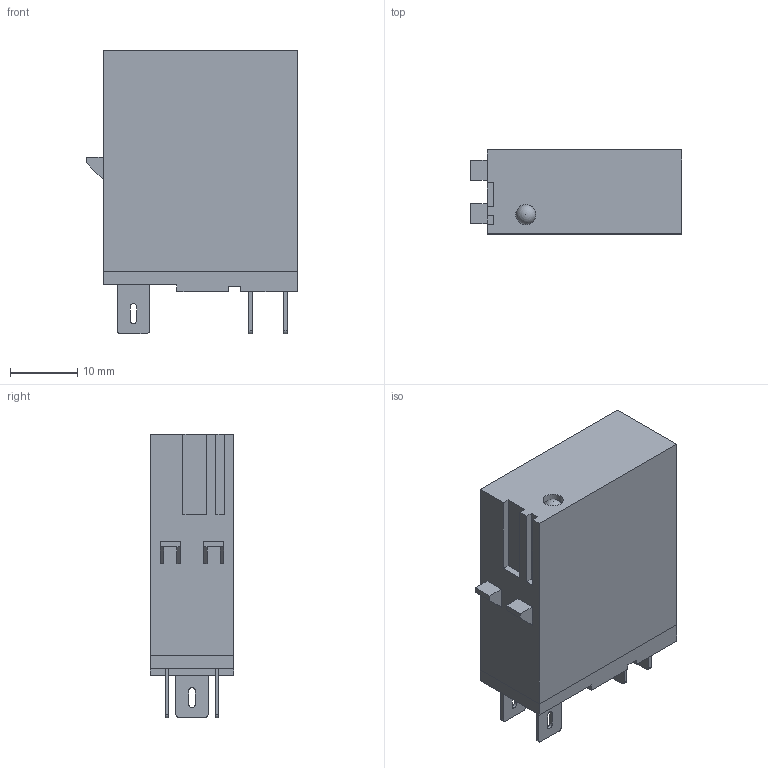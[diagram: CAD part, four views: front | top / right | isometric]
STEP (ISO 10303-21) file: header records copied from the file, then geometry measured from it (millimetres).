
FILE_DESCRIPTION(('STEP AP203'),'1');
FILE_NAME('KSO_3D.stp','2022-11-01T07:37:25',(' '),(' '),'Spatial InterOp 3D',' ',' ');
FILE_SCHEMA(('CONFIG_CONTROL_DESIGN'));
Length unit declared in the file: millimetre
Products named in the file (9): KSO; LED-1; KSO_KDM7.755.568_输入端子-2; KSO_KDM7.755.569_输出端子-2; KSO盖板; KSO外壳
Assembly tree (10 placements, depth 2):
  KSO
    LED-1
    LED-1
    LED-1
    LED-1
    KSO_KDM7.755.568_输入端子-2  x2
    KSO_KDM7.755.569_输出端子-2  x2
    KSO盖板
    KSO外壳
Bounding box: 31.5 x 12.5 x 42.3 mm (x, y, z)
Volume: 3951.2 mm3; surface area: 8492.1 mm2
Topology: 6 solids, 10 shells, 338 faces, 903 edges, 588 vertices
Faces by surface type: plane 300, cylinder 37, sphere 1
Full cylindrical faces by diameter (mm): 2.5 x1, 3 x2
Entity records: 8836 total; most frequent: CARTESIAN_POINT 1498, ORIENTED_EDGE 1436, DIRECTION 1344, EDGE_CURVE 729, LINE 678, VECTOR 678, VERTEX_POINT 479, AXIS2_PLACEMENT_3D 333
